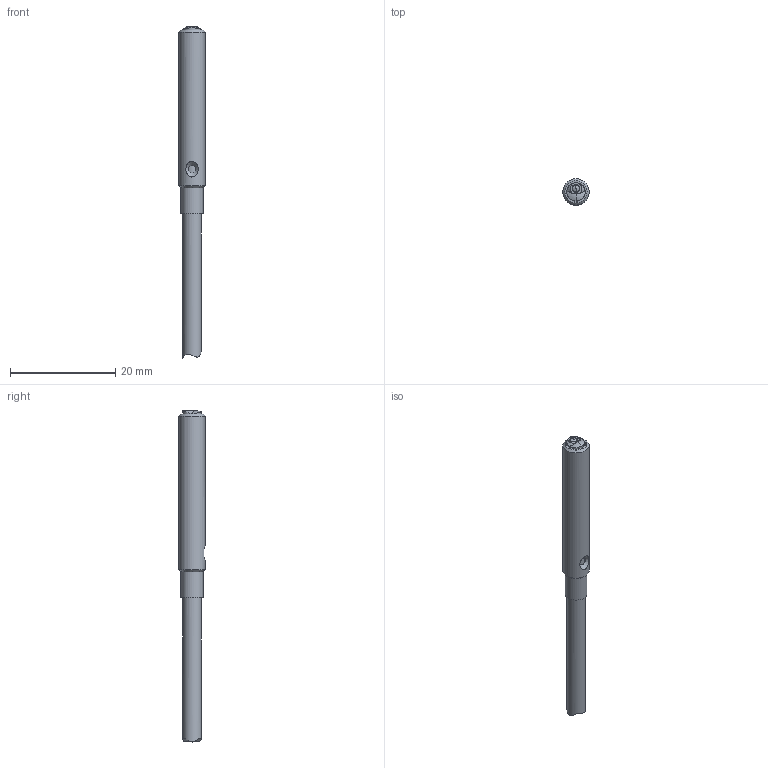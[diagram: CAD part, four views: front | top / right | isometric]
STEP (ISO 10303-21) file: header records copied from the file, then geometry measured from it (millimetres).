
FILE_DESCRIPTION(/* description */ (''),/* implementation_level */ '2;1');
FILE_NAME(/* name */ 'C:\#Vault-WorkDir\Konstruktions-Dokumente\Projekte\Handelsware\FT 04, FT 05\153-13582_FT 05 R-PSL-K3.stp',/* time_stamp */ '2019-02-27T09:24:33+01:00',/* author */ ('SensoPart'),/* organization */ ('SensoPart'),/* preprocessor_version */ 'ST-DEVELOPER v17',/* originating_system */ 'Autodesk Inventor 2018',/* authorisation */ '');
FILE_SCHEMA (('AUTOMOTIVE_DESIGN { 1 0 10303 214 3 1 1 }'));
Length unit declared in the file: millimetre
Products named in the file (1): GH-ENG-0028176
Bounding box: 5 x 5 x 63.18 mm (x, y, z)
Volume: 917 mm3; surface area: 894.5 mm2
Topology: 1 solids, 1 shells, 38 faces, 92 edges, 60 vertices
Faces by surface type: plane 12, cylinder 11, bspline 9, cone 5, torus 1
Full cylindrical faces by diameter (mm): 1.25 x1, 3.5 x1, 3.55 x1, 4.2 x1, 5 x1
Entity records: 6350 total; most frequent: CARTESIAN_POINT 5447, ORIENTED_EDGE 176, DIRECTION 152, EDGE_CURVE 88, AXIS2_PLACEMENT_3D 63, VERTEX_POINT 60, EDGE_LOOP 46, STYLED_ITEM 39
